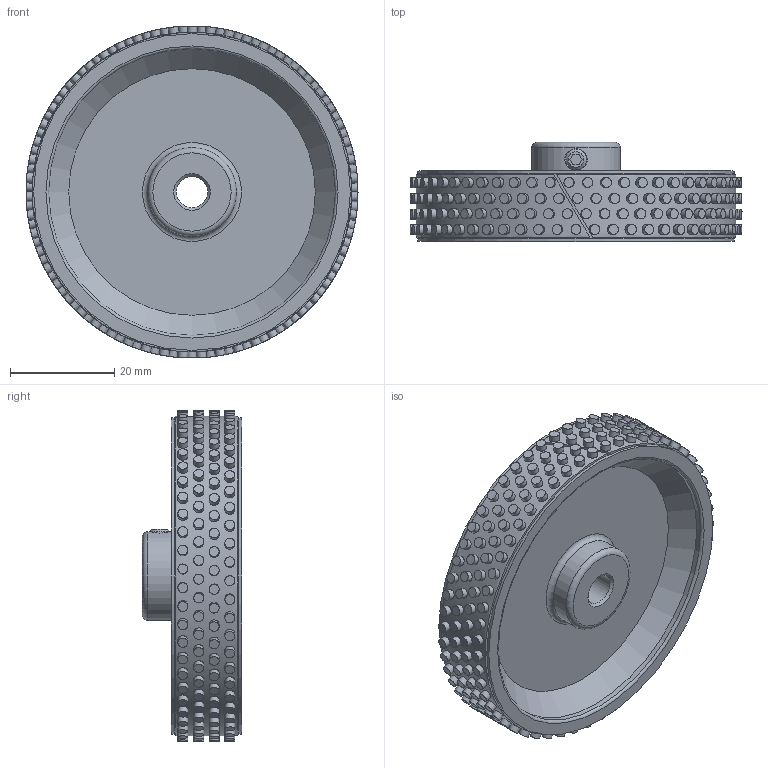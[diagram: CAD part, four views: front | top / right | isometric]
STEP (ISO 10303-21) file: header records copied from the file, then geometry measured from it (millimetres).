
FILE_DESCRIPTION( ( 'Unknown' ), '1' );
FILE_NAME( '//emea.baumernet.org/de01apps/Konstr_Zchng/3D_Zeichnung/Produkte/Messrad/Messräder_09156/Step-Marketing/MR261.06A.stp', 'Unknown', ( 'Unknown' ), ( 'Unknown' ), 'PSStep 19.0.9', 'Unknown', ' ' );
FILE_SCHEMA( ( 'AUTOMOTIVE_DESIGN { 1 0 10303 214 1 1 1 1 }' ) );
Length unit declared in the file: millimetre
Products named in the file (4): Assem1; Gewindestift M4x6 DIN 913; 05506261R; 14700024_Rund
Assembly tree (3 placements, depth 2):
  Assem1
    Gewindestift M4x6 DIN 913
    05506261R
    14700024_Rund
Bounding box: 63.66 x 19 x 63.66 mm (x, y, z)
Volume: 20582.6 mm3; surface area: 17114.7 mm2
Topology: 3 solids, 3 shells, 486 faces, 752 edges, 499 vertices
Faces by surface type: cylinder 452, plane 21, cone 6, torus 6, bspline 1
Full cylindrical faces by diameter (mm): 1.9 x220, 3.242 x1, 4 x1, 6 x1, 17 x2, 55 x2, 59.76 x1, 60.75 x2
Entity records: 22365 total; most frequent: CARTESIAN_POINT 15274, DIRECTION 1076, ORIENTED_EDGE 1006, EDGE_LOOP 960, FACE_OUTER_BOUND 723, AXIS2_PLACEMENT_3D 527, EDGE_CURVE 503, VERTEX_POINT 493
